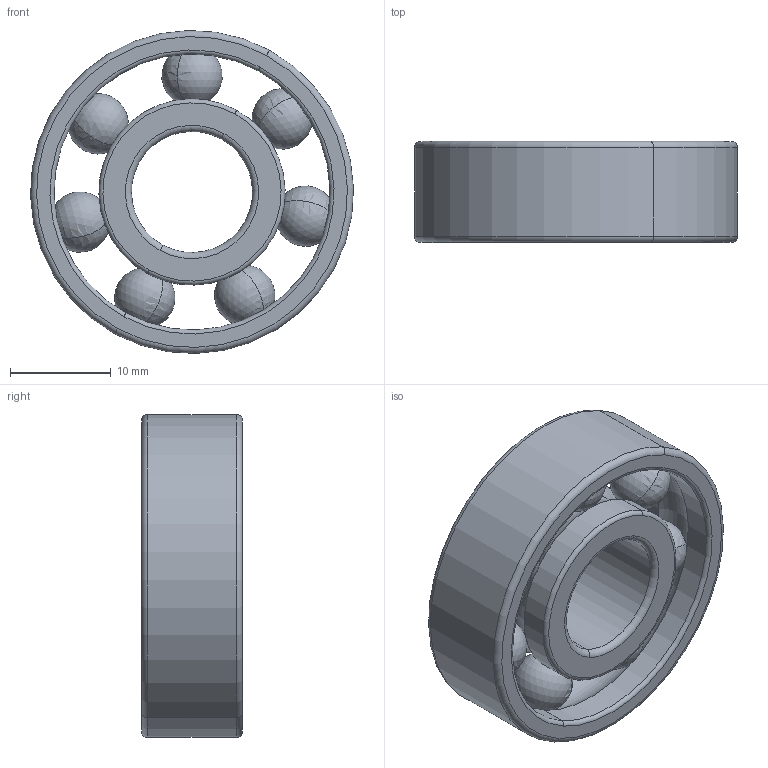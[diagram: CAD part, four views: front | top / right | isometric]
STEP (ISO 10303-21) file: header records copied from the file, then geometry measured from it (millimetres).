
FILE_DESCRIPTION(('CATIA V5 STEP Exchange'),'2;1');
FILE_NAME('C:\Users\Lorenzo\Desktop\Prodotto1.stp','2019-03-21T11:32:35+00:00',('none'),('none'),'CATIA Version 5 Release 18 GA (IN-10)','CATIA V5 STEP AP203','none');
FILE_SCHEMA(('CONFIG_CONTROL_DESIGN'));
Length unit declared in the file: millimetre
Products named in the file (1): Prodotto1
Assembly tree (3 placements, depth 2):
  Prodotto1
    #56
    #478
    #900
Bounding box: 31.99 x 10 x 31.99 mm (x, y, z)
Volume: 4157.8 mm3; surface area: 4294.9 mm2
Topology: 9 solids, 9 shells, 50 faces, 114 edges, 54 vertices
Faces by surface type: torus 20, sphere 14, cylinder 12, plane 4
Entity records: 1127 total; most frequent: ORIENTED_EDGE 172, CARTESIAN_POINT 171, DIRECTION 148, AXIS2_PLACEMENT_3D 105, EDGE_CURVE 86, CIRCLE 74, EDGE_LOOP 54, VERTEX_POINT 54
